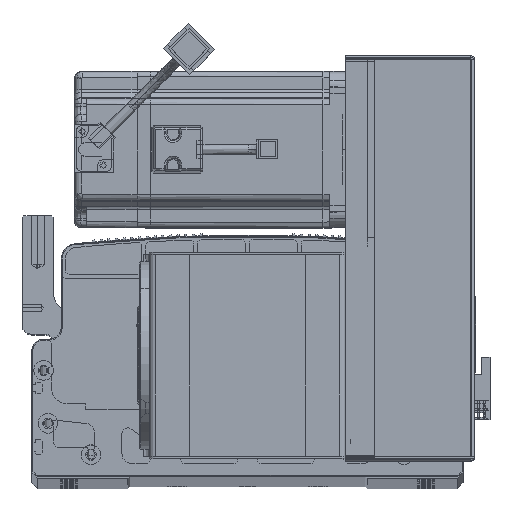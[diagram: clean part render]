
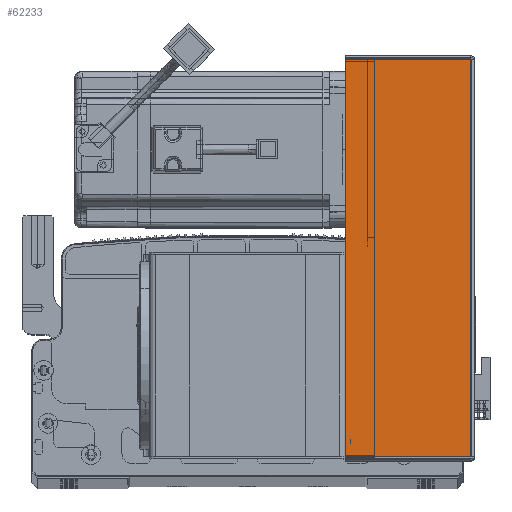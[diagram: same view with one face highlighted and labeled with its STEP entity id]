
A CAD part, top view. The second image highlights one B-rep face of the part: STEP entity #62233.
In plain terms, the highlighted planar face has unit normal (0, 0, 1) as drawn and (0, -1, 0) by its records, which use the part's own axes.
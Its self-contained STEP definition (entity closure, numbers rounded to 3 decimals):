
#4725 = VERTEX_POINT ( 'NONE', #43664 ) ;
#7433 = CARTESIAN_POINT ( 'NONE',  ( 0., -1.5, -0.707 ) ) ;
#8766 = LINE ( 'NONE', #7433, #91526 ) ;
#13838 = DIRECTION ( 'NONE',  ( 1., 0., 0. ) ) ;
#14674 = DIRECTION ( 'NONE',  ( -1., 0., 0. ) ) ;
#17454 = FACE_OUTER_BOUND ( 'NONE', #51719, .T. ) ;
#22374 = DIRECTION ( 'NONE',  ( 1., 0., 0. ) ) ;
#26915 = CARTESIAN_POINT ( 'NONE',  ( 0.737, -1.5, -203.293 ) ) ;
#27416 = EDGE_CURVE ( 'NONE', #4725, #53635, #27804, .T. ) ;
#27804 = LINE ( 'NONE', #44281, #84150 ) ;
#28057 = VECTOR ( 'NONE', #64901, 1000. ) ;
#37035 = CARTESIAN_POINT ( 'NONE',  ( 0.737, -1.5, 0. ) ) ;
#37110 = EDGE_CURVE ( 'NONE', #90759, #70739, #38832, .T. ) ;
#37780 = DIRECTION ( 'NONE',  ( 0., 1., 0. ) ) ;
#38832 = LINE ( 'NONE', #37035, #28057 ) ;
#40404 = EDGE_CURVE ( 'NONE', #90759, #4725, #45444, .T. ) ;
#42863 = PLANE ( 'NONE',  #81754 ) ;
#43188 = CARTESIAN_POINT ( 'NONE',  ( 0., -1.5, 0. ) ) ;
#43664 = CARTESIAN_POINT ( 'NONE',  ( 64.5, -1.5, -203.293 ) ) ;
#44281 = CARTESIAN_POINT ( 'NONE',  ( 64.5, -1.5, 0. ) ) ;
#45444 = LINE ( 'NONE', #53187, #98125 ) ;
#50468 = CARTESIAN_POINT ( 'NONE',  ( 64.5, -1.5, -0.707 ) ) ;
#51333 = DIRECTION ( 'NONE',  ( 0., 0., 1. ) ) ;
#51719 = EDGE_LOOP ( 'NONE', ( #74653, #80212, #66886, #66642 ) ) ;
#53187 = CARTESIAN_POINT ( 'NONE',  ( 0., -1.5, -203.293 ) ) ;
#53635 = VERTEX_POINT ( 'NONE', #50468 ) ;
#62233 = ADVANCED_FACE ( 'NONE', ( #17454 ), #42863, .F. ) ;
#64901 = DIRECTION ( 'NONE',  ( 0., 0., 1. ) ) ;
#65256 = CARTESIAN_POINT ( 'NONE',  ( 0.737, -1.5, -0.707 ) ) ;
#66642 = ORIENTED_EDGE ( 'NONE', *, *, #81111, .F. ) ;
#66886 = ORIENTED_EDGE ( 'NONE', *, *, #27416, .T. ) ;
#70739 = VERTEX_POINT ( 'NONE', #65256 ) ;
#74653 = ORIENTED_EDGE ( 'NONE', *, *, #37110, .F. ) ;
#80212 = ORIENTED_EDGE ( 'NONE', *, *, #40404, .T. ) ;
#81111 = EDGE_CURVE ( 'NONE', #70739, #53635, #8766, .T. ) ;
#81754 = AXIS2_PLACEMENT_3D ( 'NONE', #43188, #37780, #14674 ) ;
#84150 = VECTOR ( 'NONE', #51333, 1000. ) ;
#90759 = VERTEX_POINT ( 'NONE', #26915 ) ;
#91526 = VECTOR ( 'NONE', #13838, 1000. ) ;
#98125 = VECTOR ( 'NONE', #22374, 1000. ) ;
